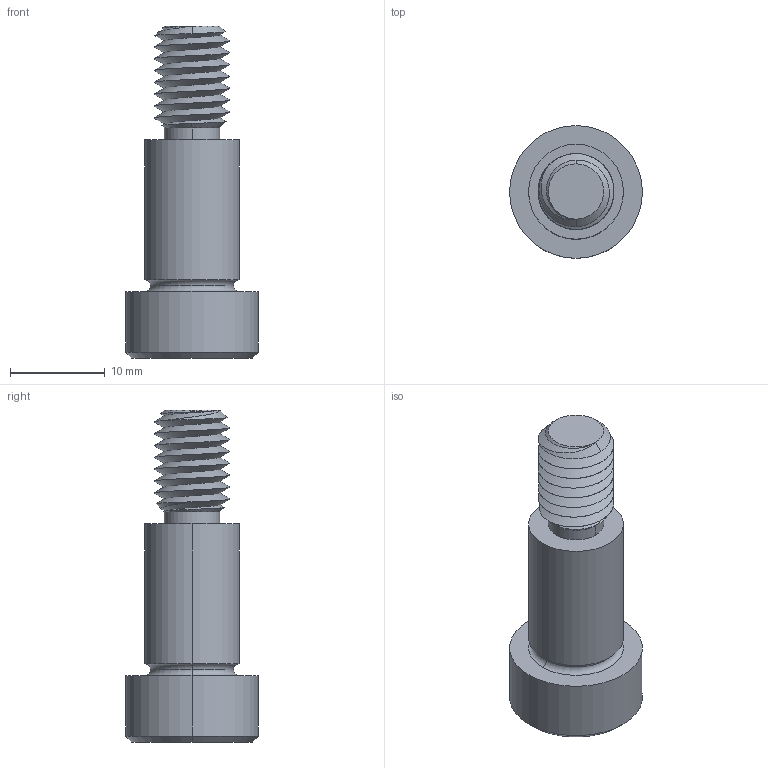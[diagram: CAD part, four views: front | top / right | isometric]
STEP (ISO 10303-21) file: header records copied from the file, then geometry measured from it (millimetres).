
FILE_DESCRIPTION (( 'STEP AP203' ), '1' );
FILE_NAME ('P0130.100-016-B8.step', '2021-11-09T21:51:38', ( '' ), ( '' ), 'SwSTEP 2.0', 'SolidWorks 2019', '' );
FILE_SCHEMA (( 'CONFIG_CONTROL_DESIGN' ));
Length unit declared in the file: millimetre
Products named in the file (1): P0130.100-016-B8
Bounding box: 14 x 14 x 35 mm (x, y, z)
Volume: 2623.7 mm3; surface area: 1680.6 mm2
Topology: 1 solids, 1 shells, 58 faces, 136 edges, 81 vertices
Faces by surface type: cylinder 21, plane 16, cone 15, torus 4, bspline 2
Entity records: 4214 total; most frequent: CARTESIAN_POINT 2911, ORIENTED_EDGE 268, DIRECTION 241, EDGE_CURVE 134, AXIS2_PLACEMENT_3D 97, VERTEX_POINT 81, EDGE_LOOP 61, ADVANCED_FACE 58
